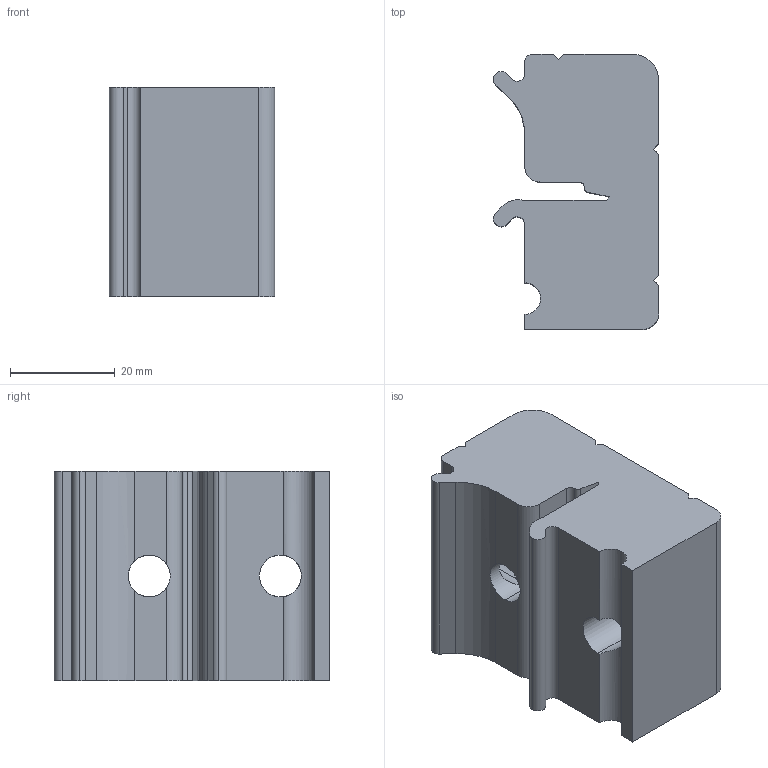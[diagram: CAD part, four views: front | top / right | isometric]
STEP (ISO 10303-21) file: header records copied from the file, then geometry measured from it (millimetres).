
FILE_DESCRIPTION (( 'STEP AP214' ), '1' );
FILE_NAME ('R1 SL32-SL40 para.step', '2017-04-05T08:05:25', ( '' ), ( '' ), 'SwSTEP 2.0', 'SolidWorks 2015', '' );
FILE_SCHEMA (( 'AUTOMOTIVE_DESIGN' ));
Length unit declared in the file: millimetre
Products named in the file (1): R1 SL32-SL40 para
Bounding box: 31.5 x 52.5 x 40 mm (x, y, z)
Volume: 49134.4 mm3; surface area: 12210.1 mm2
Topology: 1 solids, 1 shells, 64 faces, 192 edges, 121 vertices
Faces by surface type: plane 33, cylinder 29, cone 2
Entity records: 2284 total; most frequent: CARTESIAN_POINT 513, ORIENTED_EDGE 380, DIRECTION 354, EDGE_CURVE 190, VERTEX_POINT 121, AXIS2_PLACEMENT_3D 120, VECTOR 114, LINE 114
